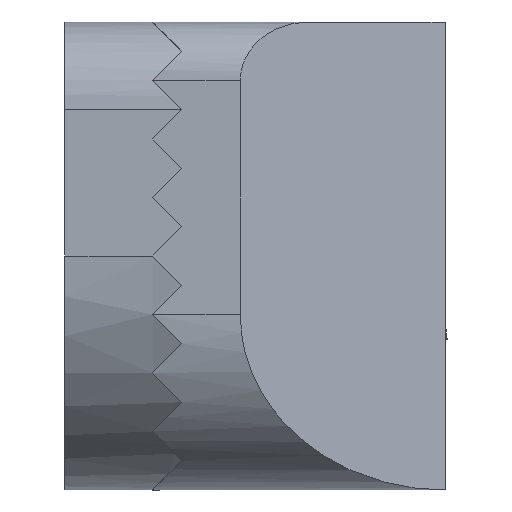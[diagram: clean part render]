
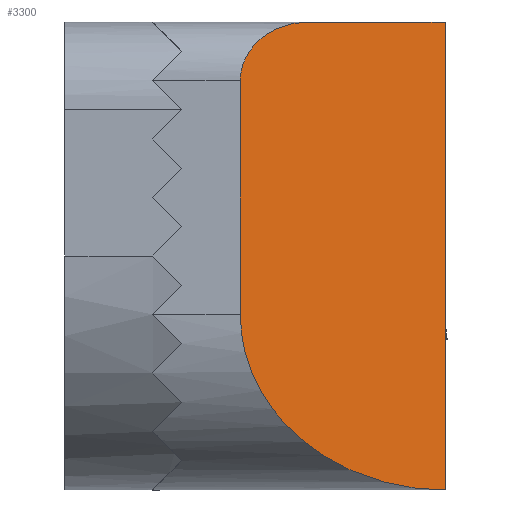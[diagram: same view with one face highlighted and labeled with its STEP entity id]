
A CAD part, left-side view. The second image highlights one B-rep face of the part: STEP entity #3300.
In plain terms, the highlighted planar face has unit normal (-0.759, -0.651, 0).
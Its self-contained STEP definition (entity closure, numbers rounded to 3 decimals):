
#4 = EDGE_CURVE ( 'NONE', #1338, #2322, #1628, .T. ) ;
#32 = CARTESIAN_POINT ( 'NONE',  ( -8., -3., 3. ) ) ;
#335 = CARTESIAN_POINT ( 'NONE',  ( -8., -3., 4. ) ) ;
#381 = VERTEX_POINT ( 'NONE', #3582 ) ;
#438 = VERTEX_POINT ( 'NONE', #2270 ) ;
#465 = VECTOR ( 'NONE', #3310, 1000. ) ;
#524 = VECTOR ( 'NONE', #676, 1000. ) ;
#593 = ORIENTED_EDGE ( 'NONE', *, *, #2683, .F. ) ;
#626 = DIRECTION ( 'NONE',  ( 0.651, -0.759, 0. ) ) ;
#676 = DIRECTION ( 'NONE',  ( 0., 0., -1. ) ) ;
#677 = FACE_OUTER_BOUND ( 'NONE', #3655, .T. ) ;
#704 = ORIENTED_EDGE ( 'NONE', *, *, #4, .T. ) ;
#712 = CARTESIAN_POINT ( 'NONE',  ( -7., -4.167, 4. ) ) ;
#715 = CARTESIAN_POINT ( 'NONE',  ( -8., -3., 3. ) ) ;
#948 = CARTESIAN_POINT ( 'NONE',  ( -5., -6.5, -4. ) ) ;
#1003 = ORIENTED_EDGE ( 'NONE', *, *, #2542, .T. ) ;
#1036 = VERTEX_POINT ( 'NONE', #2509 ) ;
#1338 = VERTEX_POINT ( 'NONE', #4225 ) ;
#1525 = CARTESIAN_POINT ( 'NONE',  ( -8., -3., -2.757 ) ) ;
#1628 =( BOUNDED_CURVE ( )  B_SPLINE_CURVE ( 3, ( #712, #3377, #3395, #32 ),
 .UNSPECIFIED., .F., .F. ) 
 B_SPLINE_CURVE_WITH_KNOTS ( ( 4, 4 ),
 ( 1.571, 3.142 ),
 .UNSPECIFIED. ) 
 CURVE ( )  GEOMETRIC_REPRESENTATION_ITEM ( )  RATIONAL_B_SPLINE_CURVE ( ( 1., 0.805, 0.805, 1. ) ) 
 REPRESENTATION_ITEM ( '' )  );
#1672 = EDGE_CURVE ( 'NONE', #2322, #438, #3540, .T. ) ;
#1769 = DIRECTION ( 'NONE',  ( 0.759, 0.651, 0. ) ) ;
#1884 = VECTOR ( 'NONE', #626, 1000. ) ;
#1944 = CARTESIAN_POINT ( 'NONE',  ( -6.757, -4.45, -4. ) ) ;
#2086 = DIRECTION ( 'NONE',  ( -0.651, 0.759, 0. ) ) ;
#2270 = CARTESIAN_POINT ( 'NONE',  ( -8., -3., -1. ) ) ;
#2322 = VERTEX_POINT ( 'NONE', #715 ) ;
#2330 = CARTESIAN_POINT ( 'NONE',  ( -5., -6.5, 4. ) ) ;
#2501 = CARTESIAN_POINT ( 'NONE',  ( -8., -3., -1. ) ) ;
#2509 = CARTESIAN_POINT ( 'NONE',  ( -5., -6.5, 4. ) ) ;
#2538 =( BOUNDED_CURVE ( )  B_SPLINE_CURVE ( 3, ( #2501, #1525, #1944, #948 ),
 .UNSPECIFIED., .F., .F. ) 
 B_SPLINE_CURVE_WITH_KNOTS ( ( 4, 4 ),
 ( 0., 1.571 ),
 .UNSPECIFIED. ) 
 CURVE ( )  GEOMETRIC_REPRESENTATION_ITEM ( )  RATIONAL_B_SPLINE_CURVE ( ( 1., 0.805, 0.805, 1. ) ) 
 REPRESENTATION_ITEM ( '' )  );
#2542 = EDGE_CURVE ( 'NONE', #438, #381, #2538, .T. ) ;
#2617 = CARTESIAN_POINT ( 'NONE',  ( -8., -3., 4. ) ) ;
#2683 = EDGE_CURVE ( 'NONE', #1036, #381, #2916, .T. ) ;
#2741 = PLANE ( 'NONE',  #3580 ) ;
#2769 = CARTESIAN_POINT ( 'NONE',  ( -8., -3., 4. ) ) ;
#2795 = ORIENTED_EDGE ( 'NONE', *, *, #3119, .F. ) ;
#2916 = LINE ( 'NONE', #2330, #465 ) ;
#3022 = LINE ( 'NONE', #2617, #1884 ) ;
#3119 = EDGE_CURVE ( 'NONE', #1338, #1036, #3022, .T. ) ;
#3300 = ADVANCED_FACE ( 'NONE', ( #677 ), #2741, .F. ) ;
#3310 = DIRECTION ( 'NONE',  ( 0., 0., -1. ) ) ;
#3348 = ORIENTED_EDGE ( 'NONE', *, *, #1672, .T. ) ;
#3377 = CARTESIAN_POINT ( 'NONE',  ( -7.586, -3.483, 4. ) ) ;
#3395 = CARTESIAN_POINT ( 'NONE',  ( -8., -3., 3.586 ) ) ;
#3540 = LINE ( 'NONE', #335, #524 ) ;
#3580 = AXIS2_PLACEMENT_3D ( 'NONE', #2769, #1769, #2086 ) ;
#3582 = CARTESIAN_POINT ( 'NONE',  ( -5., -6.5, -4. ) ) ;
#3655 = EDGE_LOOP ( 'NONE', ( #3348, #1003, #593, #2795, #704 ) ) ;
#4225 = CARTESIAN_POINT ( 'NONE',  ( -7., -4.167, 4. ) ) ;
